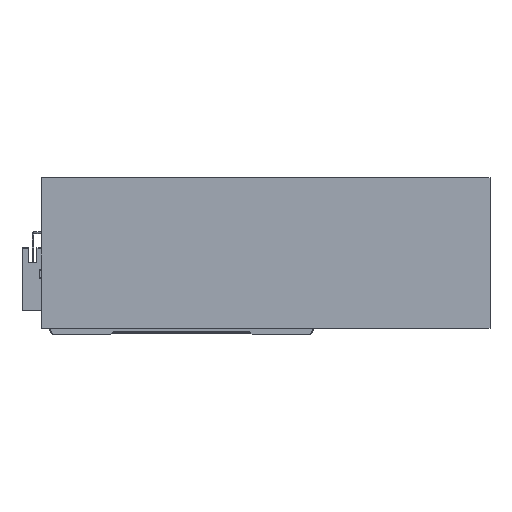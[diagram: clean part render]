
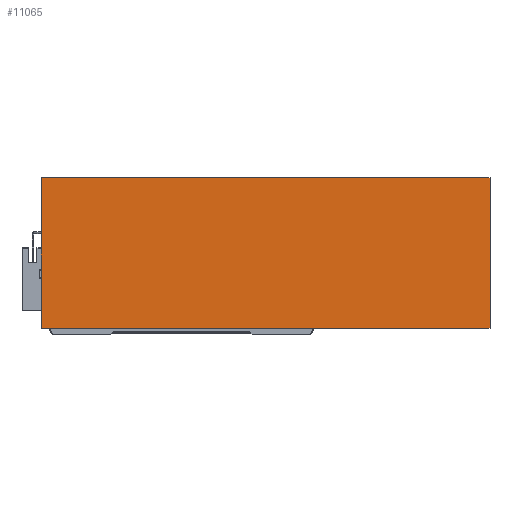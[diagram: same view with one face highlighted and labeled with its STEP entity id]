
A CAD part, top view. The second image highlights one B-rep face of the part: STEP entity #11065.
In plain terms, the highlighted planar face has unit normal (0, 0, 1).
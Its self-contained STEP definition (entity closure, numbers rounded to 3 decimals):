
#997 = EDGE_LOOP ( 'NONE', ( #26054, #15071, #3344, #11672 ) ) ;
#1045 = CARTESIAN_POINT ( 'NONE',  ( 0., 0., 50. ) ) ;
#1339 = CARTESIAN_POINT ( 'NONE',  ( 0., 0., 50. ) ) ;
#1945 = CARTESIAN_POINT ( 'NONE',  ( 0., 0., 50. ) ) ;
#2837 = LINE ( 'NONE', #1945, #13920 ) ;
#3163 = CARTESIAN_POINT ( 'NONE',  ( 0., 93., 50. ) ) ;
#3178 = VECTOR ( 'NONE', #11436, 1000. ) ;
#3344 = ORIENTED_EDGE ( 'NONE', *, *, #19348, .T. ) ;
#3572 = VERTEX_POINT ( 'NONE', #3163 ) ;
#4020 = DIRECTION ( 'NONE',  ( 1., 0., 0. ) ) ;
#4541 = CARTESIAN_POINT ( 'NONE',  ( 0., 93., 50. ) ) ;
#4576 = DIRECTION ( 'NONE',  ( -1., 0., 0. ) ) ;
#4708 = EDGE_CURVE ( 'NONE', #12845, #3572, #20299, .T. ) ;
#5174 = DIRECTION ( 'NONE',  ( 0., 1., 0. ) ) ;
#5370 = DIRECTION ( 'NONE',  ( 0., 0., -1. ) ) ;
#9600 = PLANE ( 'NONE',  #15574 ) ;
#11065 = ADVANCED_FACE ( 'NONE', ( #24541 ), #9600, .F. ) ;
#11436 = DIRECTION ( 'NONE',  ( 0., -1., 0. ) ) ;
#11672 = ORIENTED_EDGE ( 'NONE', *, *, #4708, .T. ) ;
#11692 = DIRECTION ( 'NONE',  ( -1., 0., 0. ) ) ;
#12845 = VERTEX_POINT ( 'NONE', #18672 ) ;
#13920 = VECTOR ( 'NONE', #4020, 1000. ) ;
#15071 = ORIENTED_EDGE ( 'NONE', *, *, #18982, .T. ) ;
#15503 = VECTOR ( 'NONE', #4576, 1000. ) ;
#15574 = AXIS2_PLACEMENT_3D ( 'NONE', #19880, #5370, #11692 ) ;
#15847 = VECTOR ( 'NONE', #5174, 1000. ) ;
#17360 = VERTEX_POINT ( 'NONE', #19100 ) ;
#18161 = VERTEX_POINT ( 'NONE', #1339 ) ;
#18672 = CARTESIAN_POINT ( 'NONE',  ( 277., 93., 50. ) ) ;
#18687 = EDGE_CURVE ( 'NONE', #3572, #18161, #20361, .T. ) ;
#18982 = EDGE_CURVE ( 'NONE', #18161, #17360, #2837, .T. ) ;
#19100 = CARTESIAN_POINT ( 'NONE',  ( 277., 0., 50. ) ) ;
#19348 = EDGE_CURVE ( 'NONE', #17360, #12845, #26187, .T. ) ;
#19715 = CARTESIAN_POINT ( 'NONE',  ( 277., 0., 50. ) ) ;
#19880 = CARTESIAN_POINT ( 'NONE',  ( 0., 0., 50. ) ) ;
#20299 = LINE ( 'NONE', #4541, #15503 ) ;
#20361 = LINE ( 'NONE', #1045, #3178 ) ;
#24541 = FACE_OUTER_BOUND ( 'NONE', #997, .T. ) ;
#26054 = ORIENTED_EDGE ( 'NONE', *, *, #18687, .T. ) ;
#26187 = LINE ( 'NONE', #19715, #15847 ) ;
